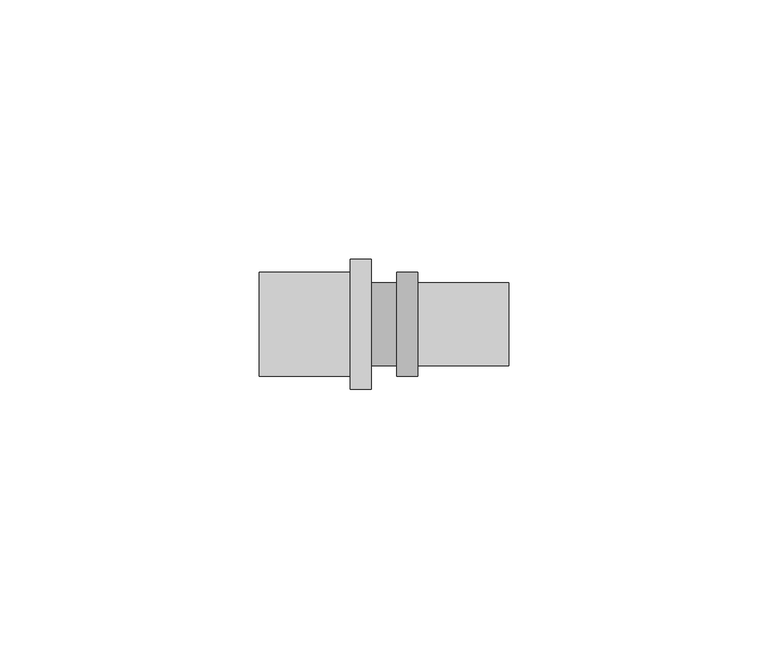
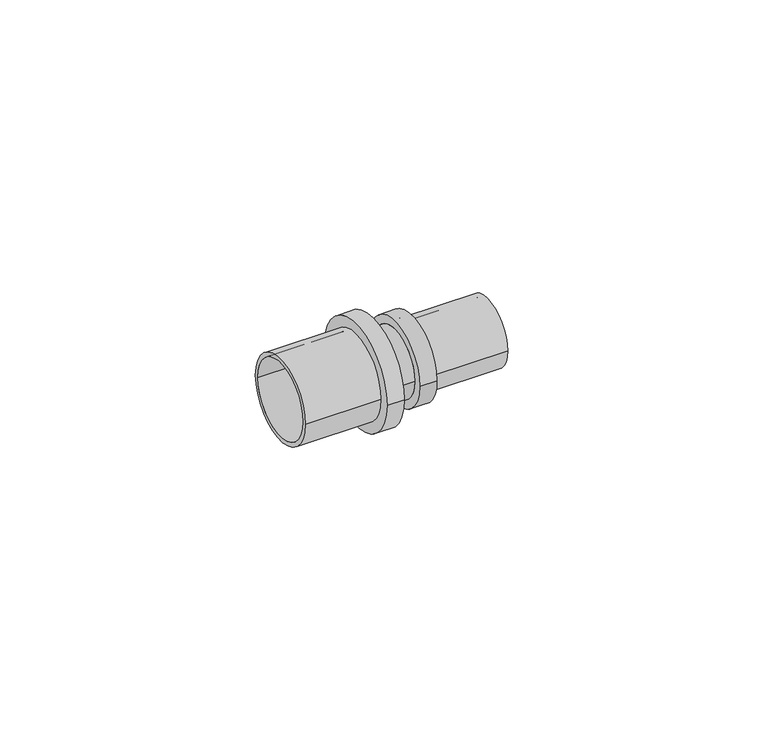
"""IFC4 building model written with IfcOpenShell, lengths in millimetres: pipe fitting geometry, БИР ПЕКС_НПР_Муфта редукционная : Муфта соединительная редукционная."""

from ifc_helpers import new_model, si_unit, point, frame, origin, origin_2d, place, context, project, spatial, circle_curve, trimmed, segment, composite_curve, outline, extrude, source, transform, mapped, element, save


def pipe_fitting_1998f7ae(model_context):
    return source(origin(), model_context, "Body", "SweptSolid", [
        extrude(outline(composite_curve([segment(trimmed(circle_curve(origin_2d(), 8.0), [point((-8.0, 0.0))], [point((8.0, 0.0))], False, "CARTESIAN"), True, "CONTINUOUS"), segment(trimmed(circle_curve(origin_2d(), 8.0), [point((8.0, 0.0))], [point((-8.0, 0.0))], False, "CARTESIAN"), True, "CONTINUOUS")], self_intersect=False)), frame((-2.5, 0.0, 0.0), z_axis=(1.0, 0.0, 0.0), x_axis=(0.0, 1.0, 0.0)), (0.0, 0.0, 1.0), 5.0),
        extrude(outline(composite_curve([segment(trimmed(circle_curve(origin_2d(), 8.0), [point((-8.0, 0.0))], [point((8.0, 0.0))], False, "CARTESIAN"), True, "CONTINUOUS"), segment(trimmed(circle_curve(origin_2d(), 8.0), [point((8.0, 0.0))], [point((-8.0, 0.0))], False, "CARTESIAN"), True, "CONTINUOUS")], self_intersect=False), holes=[composite_curve([segment(trimmed(circle_curve(origin_2d(), 7.0), [point((-7.0, 0.0))], [point((7.0, 0.0))], True, "CARTESIAN"), True, "CONTINUOUS"), segment(trimmed(circle_curve(origin_2d(), 7.0), [point((7.0, 0.0))], [point((-7.0, 0.0))], True, "CARTESIAN"), True, "CONTINUOUS")], self_intersect=False)]), frame((6.5, 0.0, 0.0), z_axis=(1.0, 0.0, 0.0), x_axis=(0.0, 1.0, 0.0)), (0.0, 0.0, 1.0), 17.5),
        extrude(outline(composite_curve([segment(trimmed(circle_curve(origin_2d(), 10.0), [point((-10.0, 0.0))], [point((10.0, 0.0))], False, "CARTESIAN"), True, "CONTINUOUS"), segment(trimmed(circle_curve(origin_2d(), 10.0), [point((10.0, 0.0))], [point((-10.0, 0.0))], False, "CARTESIAN"), True, "CONTINUOUS")], self_intersect=False), holes=[composite_curve([segment(trimmed(circle_curve(origin_2d(), 9.0), [point((-9.0, 0.0))], [point((9.0, 0.0))], True, "CARTESIAN"), True, "CONTINUOUS"), segment(trimmed(circle_curve(origin_2d(), 9.0), [point((9.0, 0.0))], [point((-9.0, 0.0))], True, "CARTESIAN"), True, "CONTINUOUS")], self_intersect=False)]), frame((-24.0, 0.0, 0.0), z_axis=(1.0, 0.0, 0.0), x_axis=(0.0, 1.0, 0.0)), (0.0, 0.0, 1.0), 17.5),
        extrude(outline(composite_curve([segment(trimmed(circle_curve(origin_2d(), 10.0), [point((-10.0, 0.0))], [point((10.0, 0.0))], False, "CARTESIAN"), True, "CONTINUOUS"), segment(trimmed(circle_curve(origin_2d(), 10.0), [point((10.0, 0.0))], [point((-10.0, 0.0))], False, "CARTESIAN"), True, "CONTINUOUS")], self_intersect=False), holes=[composite_curve([segment(trimmed(circle_curve(origin_2d(), 8.0), [point((-8.0, 0.0))], [point((8.0, 0.0))], True, "CARTESIAN"), True, "CONTINUOUS"), segment(trimmed(circle_curve(origin_2d(), 8.0), [point((8.0, 0.0))], [point((-8.0, 0.0))], True, "CARTESIAN"), True, "CONTINUOUS")], self_intersect=False)]), frame((2.5, 0.0, 0.0), z_axis=(1.0, 0.0, 0.0), x_axis=(0.0, 1.0, 0.0)), (0.0, 0.0, 1.0), 4.0),
        extrude(outline(composite_curve([segment(trimmed(circle_curve(origin_2d(), 12.5), [point((-12.5, 0.0))], [point((12.5, 0.0))], False, "CARTESIAN"), True, "CONTINUOUS"), segment(trimmed(circle_curve(origin_2d(), 12.5), [point((12.5, 0.0))], [point((-12.5, 0.0))], False, "CARTESIAN"), True, "CONTINUOUS")], self_intersect=False), holes=[composite_curve([segment(trimmed(circle_curve(origin_2d(), 8.0), [point((-8.0, 0.0))], [point((8.0, 0.0))], True, "CARTESIAN"), True, "CONTINUOUS"), segment(trimmed(circle_curve(origin_2d(), 8.0), [point((8.0, 0.0))], [point((-8.0, 0.0))], True, "CARTESIAN"), True, "CONTINUOUS")], self_intersect=False)]), frame((-6.5, 0.0, 0.0), z_axis=(1.0, 0.0, 0.0), x_axis=(0.0, 1.0, 0.0)), (0.0, 0.0, 1.0), 4.0),
    ])


if __name__ == "__main__":
    model = new_model("IFC4")
    model_context = context("Model", 3, world=origin())
    ifc_project = project(units=[si_unit("LENGTHUNIT", "METRE", prefix="MILLI")], contexts=[model_context])
    site = spatial("IfcSite", under=ifc_project)
    building = spatial("IfcBuilding", under=site)
    placement = place(None, origin())
    pipe_fitting_shape = pipe_fitting_1998f7ae(model_context)
    element("IfcPipeFitting", 1, ObjectType="БИР ПЕКС_НПР_Муфта редукционная : Муфта соединительная редукционная", at=placement, inside=building, context=model_context, shape_type="MappedRepresentation", body=[
        mapped(pipe_fitting_shape, transform((0.0, 0.0, 0.0), x_axis=(1.0, 0.0, 0.0), y_axis=(0.0, 1.0, 0.0), z_axis=(0.0, 0.0, 1.0))),
    ])
    save(model, "model.ifc")
